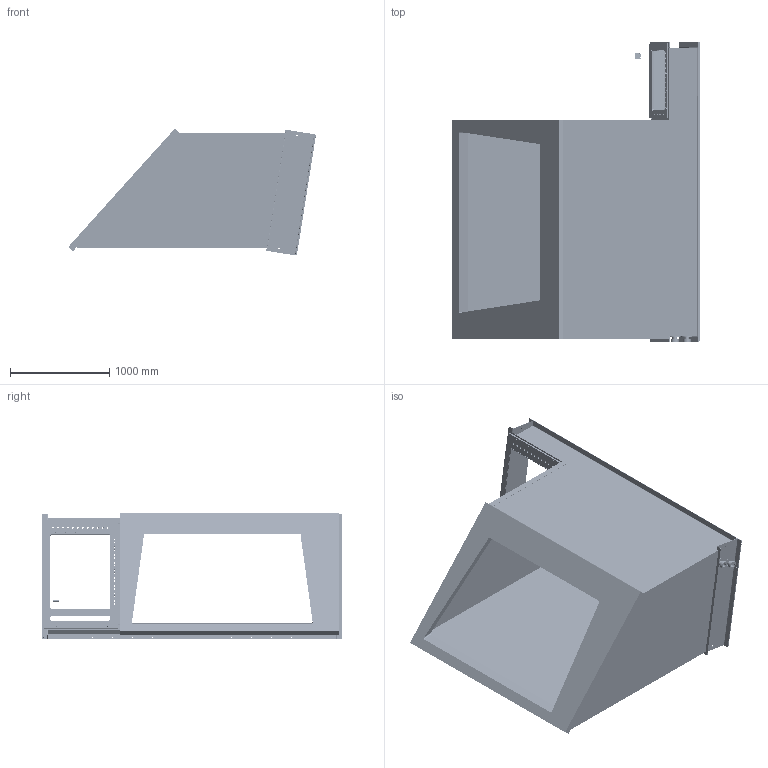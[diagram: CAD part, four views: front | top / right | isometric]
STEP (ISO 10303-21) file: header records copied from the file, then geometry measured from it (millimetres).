
FILE_DESCRIPTION(/* description */ (''),/* implementation_level */ '2;1');
FILE_NAME(/* name */ 'LHCb_pipes_v2.stp',/* time_stamp */ '2020-10-21T15:39:45+02:00',/* author */ (''),/* organization */ (''),/* preprocessor_version */ 'ST-DEVELOPER v16.7',/* originating_system */ 'SIEMENS PLM Software NX 12.0',/* authorisation */ '');
FILE_SCHEMA (('AUTOMOTIVE_DESIGN { 1 0 10303 214 3 1 1 1 }'));
Products named in the file (1): bez2578FF97jkby
Bounding box: 2496.23 x 3020 x 1277.92 mm (x, y, z)
Volume: 959071532.2 mm3; surface area: 48947444.7 mm2
Topology: 576 solids, 576 shells, 8150 faces, 19785 edges, 12585 vertices
Faces by surface type: cylinder 3503, plane 2993, torus 689, cone 581, sphere 384
Full cylindrical faces by diameter (mm): 3 x8, 4.2 x2, 4.351 x2, 4.826 x2, 5 x155, 5.795 x70, 6 x24, 6.6 x4, 6.8 x116, 7 x70, 7.76 x4, 8 x8, 8.4 x8, 8.5 x10, 9 x51, 9.732 x16, 10 x66, 10.3 x8, 10.5 x28, 11 x48, 12 x4, 12.5 x12, 13 x4, 15.083 x28, 16 x16, 17 x8, 18 x4, 19 x22, 20 x27, 20.2 x28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
Entity records: 289573 total; most frequent: CARTESIAN_POINT 73438, DIRECTION 39633, ORIENTED_EDGE 34130, EDGE_CURVE 17065, AXIS2_PLACEMENT_3D 16231, VERTEX_POINT 12208, EDGE_LOOP 11910, ADVANCED_FACE 8150
